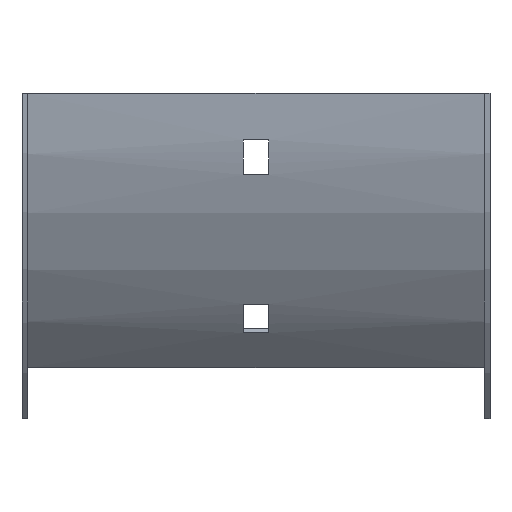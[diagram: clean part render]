
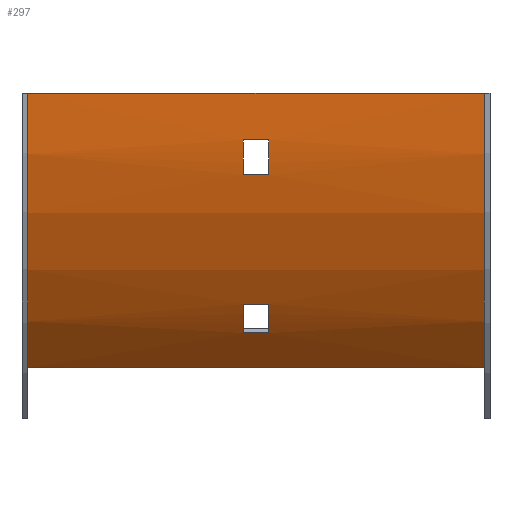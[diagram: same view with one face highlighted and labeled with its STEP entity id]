
A CAD part, front view. The second image highlights one B-rep face of the part: STEP entity #297.
In plain terms, the highlighted cylindrical face has radius 100 mm (diameter 200 mm), a partial arc.
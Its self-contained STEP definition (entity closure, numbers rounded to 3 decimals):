
#1 = CIRCLE ( 'NONE', #249, 100. ) ;
#2 = CARTESIAN_POINT ( 'NONE',  ( -58.75, -1.5, 0. ) ) ;
#10 = LINE ( 'NONE', #200, #159 ) ;
#14 = CARTESIAN_POINT ( 'NONE',  ( 3.25, 98.5, 0. ) ) ;
#16 = EDGE_CURVE ( 'NONE', #59, #280, #156, .T. ) ;
#18 = CARTESIAN_POINT ( 'NONE',  ( 3.25, 0.73, -21. ) ) ;
#22 = CARTESIAN_POINT ( 'NONE',  ( 3.25, -0.777, -12. ) ) ;
#23 = VERTEX_POINT ( 'NONE', #195 ) ;
#25 = DIRECTION ( 'NONE',  ( -1., 0., 0. ) ) ;
#26 = EDGE_LOOP ( 'NONE', ( #446, #251, #489, #480 ) ) ;
#33 = VERTEX_POINT ( 'NONE', #248 ) ;
#41 = EDGE_LOOP ( 'NONE', ( #173, #232, #606, #588 ) ) ;
#46 = FACE_BOUND ( 'NONE', #404, .T. ) ;
#54 = DIRECTION ( 'NONE',  ( 1., 0., 0. ) ) ;
#56 = AXIS2_PLACEMENT_3D ( 'NONE', #422, #191, #376 ) ;
#59 = VERTEX_POINT ( 'NONE', #334 ) ;
#68 = DIRECTION ( 'NONE',  ( 0., 0., 1. ) ) ;
#75 = DIRECTION ( 'NONE',  ( 1., 0., 0. ) ) ;
#87 = VERTEX_POINT ( 'NONE', #406 ) ;
#88 = EDGE_CURVE ( 'NONE', #564, #23, #364, .T. ) ;
#93 = ORIENTED_EDGE ( 'NONE', *, *, #472, .T. ) ;
#96 = DIRECTION ( 'NONE',  ( 0., 0., -1. ) ) ;
#124 = EDGE_CURVE ( 'NONE', #564, #59, #399, .T. ) ;
#136 = CIRCLE ( 'NONE', #431, 100. ) ;
#137 = VERTEX_POINT ( 'NONE', #22 ) ;
#142 = ORIENTED_EDGE ( 'NONE', *, *, #451, .T. ) ;
#144 = DIRECTION ( 'NONE',  ( -1., 0., 0. ) ) ;
#152 = DIRECTION ( 'NONE',  ( -1., 0., 0. ) ) ;
#156 = CIRCLE ( 'NONE', #167, 100. ) ;
#158 = VECTOR ( 'NONE', #194, 1000. ) ;
#159 = VECTOR ( 'NONE', #384, 1000. ) ;
#167 = AXIS2_PLACEMENT_3D ( 'NONE', #383, #152, #570 ) ;
#169 = CARTESIAN_POINT ( 'NONE',  ( 60.25, 0.73, -21. ) ) ;
#173 = ORIENTED_EDGE ( 'NONE', *, *, #366, .F. ) ;
#177 = AXIS2_PLACEMENT_3D ( 'NONE', #548, #348, #299 ) ;
#191 = DIRECTION ( 'NONE',  ( -1., 0., 0. ) ) ;
#192 = VERTEX_POINT ( 'NONE', #552 ) ;
#193 = EDGE_CURVE ( 'NONE', #87, #520, #454, .T. ) ;
#194 = DIRECTION ( 'NONE',  ( -1., 0., 0. ) ) ;
#195 = CARTESIAN_POINT ( 'NONE',  ( 58.75, -1.5, 0. ) ) ;
#198 = CIRCLE ( 'NONE', #365, 100. ) ;
#200 = CARTESIAN_POINT ( 'NONE',  ( 60.25, 14.517, -54.285 ) ) ;
#202 = CARTESIAN_POINT ( 'NONE',  ( 58.75, -1.5, 0. ) ) ;
#203 = DIRECTION ( 'NONE',  ( 1., 0., 0. ) ) ;
#211 = DIRECTION ( 'NONE',  ( -1., 0., 0. ) ) ;
#213 = LINE ( 'NONE', #169, #353 ) ;
#222 = CARTESIAN_POINT ( 'NONE',  ( 60.25, 19.815, -61.714 ) ) ;
#225 = FACE_OUTER_BOUND ( 'NONE', #26, .T. ) ;
#232 = ORIENTED_EDGE ( 'NONE', *, *, #561, .F. ) ;
#237 = CYLINDRICAL_SURFACE ( 'NONE', #56, 100. ) ;
#248 = CARTESIAN_POINT ( 'NONE',  ( -3.25, 14.517, -54.285 ) ) ;
#249 = AXIS2_PLACEMENT_3D ( 'NONE', #479, #54, #340 ) ;
#251 = ORIENTED_EDGE ( 'NONE', *, *, #124, .F. ) ;
#262 = DIRECTION ( 'NONE',  ( -1., 0., 0. ) ) ;
#280 = VERTEX_POINT ( 'NONE', #2 ) ;
#291 = VECTOR ( 'NONE', #262, 1000. ) ;
#295 = CARTESIAN_POINT ( 'NONE',  ( -3.25, 19.815, -61.714 ) ) ;
#297 = ADVANCED_FACE ( 'NONE', ( #466, #225, #46 ), #237, .T. ) ;
#299 = DIRECTION ( 'NONE',  ( 0., 0., 1. ) ) ;
#302 = DIRECTION ( 'NONE',  ( 0., 0., -1. ) ) ;
#305 = VERTEX_POINT ( 'NONE', #470 ) ;
#318 = EDGE_CURVE ( 'NONE', #23, #280, #574, .T. ) ;
#322 = ORIENTED_EDGE ( 'NONE', *, *, #424, .T. ) ;
#334 = CARTESIAN_POINT ( 'NONE',  ( -58.75, 27.789, -70.711 ) ) ;
#337 = CARTESIAN_POINT ( 'NONE',  ( 3.25, 98.5, 0. ) ) ;
#340 = DIRECTION ( 'NONE',  ( 0., 0., 1. ) ) ;
#347 = LINE ( 'NONE', #395, #291 ) ;
#348 = DIRECTION ( 'NONE',  ( -1., 0., 0. ) ) ;
#353 = VECTOR ( 'NONE', #75, 1000. ) ;
#357 = CARTESIAN_POINT ( 'NONE',  ( -3.25, 98.5, 0. ) ) ;
#358 = CARTESIAN_POINT ( 'NONE',  ( 58.75, 27.789, -70.711 ) ) ;
#364 = CIRCLE ( 'NONE', #177, 100. ) ;
#365 = AXIS2_PLACEMENT_3D ( 'NONE', #337, #144, #96 ) ;
#366 = EDGE_CURVE ( 'NONE', #455, #305, #1, .T. ) ;
#376 = DIRECTION ( 'NONE',  ( 0., 0., 1. ) ) ;
#383 = CARTESIAN_POINT ( 'NONE',  ( -58.75, 98.5, 0. ) ) ;
#384 = DIRECTION ( 'NONE',  ( 1., 0., 0. ) ) ;
#395 = CARTESIAN_POINT ( 'NONE',  ( 60.25, -0.777, -12. ) ) ;
#399 = LINE ( 'NONE', #358, #591 ) ;
#404 = EDGE_LOOP ( 'NONE', ( #603, #93, #322, #142 ) ) ;
#406 = CARTESIAN_POINT ( 'NONE',  ( 3.25, 19.815, -61.714 ) ) ;
#422 = CARTESIAN_POINT ( 'NONE',  ( 60.25, 98.5, 0. ) ) ;
#424 = EDGE_CURVE ( 'NONE', #33, #192, #10, .T. ) ;
#427 = EDGE_CURVE ( 'NONE', #559, #137, #198, .T. ) ;
#431 = AXIS2_PLACEMENT_3D ( 'NONE', #14, #203, #68 ) ;
#446 = ORIENTED_EDGE ( 'NONE', *, *, #16, .F. ) ;
#451 = EDGE_CURVE ( 'NONE', #192, #87, #136, .T. ) ;
#454 = LINE ( 'NONE', #222, #460 ) ;
#455 = VERTEX_POINT ( 'NONE', #493 ) ;
#460 = VECTOR ( 'NONE', #25, 1000. ) ;
#466 = FACE_BOUND ( 'NONE', #41, .T. ) ;
#470 = CARTESIAN_POINT ( 'NONE',  ( -3.25, 0.73, -21. ) ) ;
#472 = EDGE_CURVE ( 'NONE', #520, #33, #522, .T. ) ;
#479 = CARTESIAN_POINT ( 'NONE',  ( -3.25, 98.5, 0. ) ) ;
#480 = ORIENTED_EDGE ( 'NONE', *, *, #318, .T. ) ;
#489 = ORIENTED_EDGE ( 'NONE', *, *, #88, .T. ) ;
#491 = DIRECTION ( 'NONE',  ( -1., 0., 0. ) ) ;
#493 = CARTESIAN_POINT ( 'NONE',  ( -3.25, -0.777, -12. ) ) ;
#496 = EDGE_CURVE ( 'NONE', #305, #559, #213, .T. ) ;
#502 = AXIS2_PLACEMENT_3D ( 'NONE', #357, #491, #302 ) ;
#520 = VERTEX_POINT ( 'NONE', #295 ) ;
#522 = CIRCLE ( 'NONE', #502, 100. ) ;
#539 = CARTESIAN_POINT ( 'NONE',  ( 58.75, 27.789, -70.711 ) ) ;
#548 = CARTESIAN_POINT ( 'NONE',  ( 58.75, 98.5, 0. ) ) ;
#552 = CARTESIAN_POINT ( 'NONE',  ( 3.25, 14.517, -54.285 ) ) ;
#559 = VERTEX_POINT ( 'NONE', #18 ) ;
#561 = EDGE_CURVE ( 'NONE', #137, #455, #347, .T. ) ;
#564 = VERTEX_POINT ( 'NONE', #539 ) ;
#570 = DIRECTION ( 'NONE',  ( 0., 0., 1. ) ) ;
#574 = LINE ( 'NONE', #202, #158 ) ;
#588 = ORIENTED_EDGE ( 'NONE', *, *, #496, .F. ) ;
#591 = VECTOR ( 'NONE', #211, 1000. ) ;
#603 = ORIENTED_EDGE ( 'NONE', *, *, #193, .T. ) ;
#606 = ORIENTED_EDGE ( 'NONE', *, *, #427, .F. ) ;
